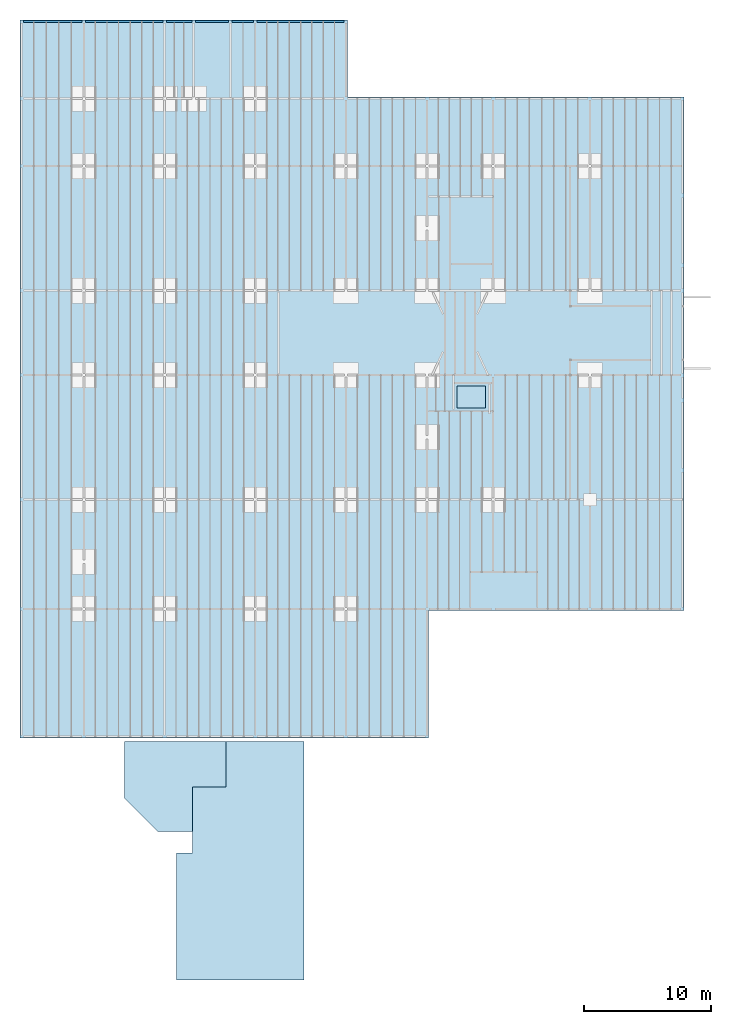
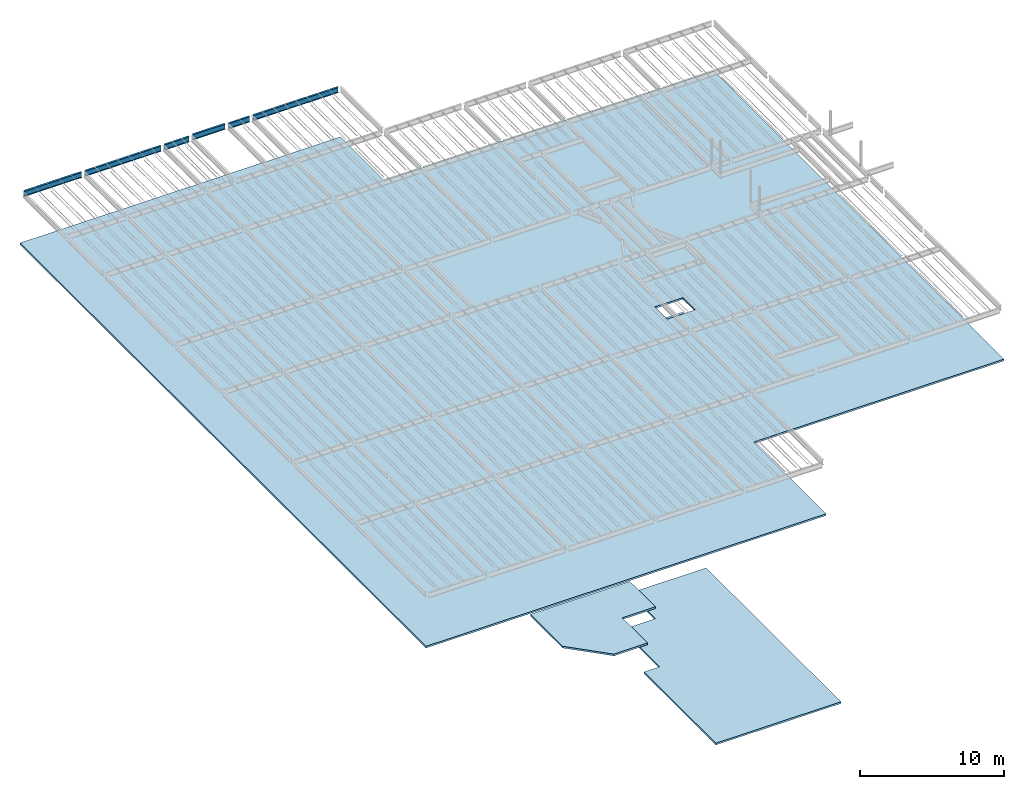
# One storey, part 16 of 75: 7 beams, 4 slabs, 1 opening.
"""IFC2X3 building model written with IfcOpenShell, lengths in metres."""

from ifc_helpers import new_model, entity, si_unit, converted_unit, frame, frame_2d, origin, origin_2d_with_axis, place, context, project, spatial, polyline, circle_curve, parameter, trimmed, segment, composite_curve, rectangle, outline, extrude, material, layer, layer_set, layer_usage, element, save


model = new_model("IFC2X3")

# Units and contexts
model_context = context("Model", 3, precision=1e-09, world=origin())
plan_context = context("Plan", 3, precision=1e-09, world=origin())
ifc_project = project(units=[si_unit("LENGTHUNIT", "METRE"), si_unit("AREAUNIT", "SQUARE_METRE"), si_unit("VOLUMEUNIT", "CUBIC_METRE"), converted_unit("PLANEANGLEUNIT", "DEGREE", entity("IfcRatioMeasure", 0.01745329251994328), si_unit("PLANEANGLEUNIT", "RADIAN"), dimensions=[0, 0, 0, 0, 0, 0, 0]), si_unit("TIMEUNIT", "SECOND")], contexts=[model_context, plan_context])

# Site, building, storey
site_placement = place(None, origin())
site = spatial("IfcSite", under=ifc_project, at=site_placement, Name="Default", CompositionType="ELEMENT")
building_placement = place(site_placement, origin())
building = spatial("IfcBuilding", under=site, at=building_placement, CompositionType="ELEMENT")
storey_placement = place(building_placement, origin())
storey = spatial("IfcBuildingStorey", under=building, at=storey_placement, Name="First Floor", CompositionType="ELEMENT", Elevation=-3.531500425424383e-13)

# Beams
ifc_material_1 = material(Name="Metal - Steel - 345 MPa")
beam_1_placement = place(storey_placement, frame((-46.99784025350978, 56.14000000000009, 4.404500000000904), z_axis=(0.0, 0.0, 1.0), x_axis=(0.0, -1.0, 0.0)))
element("IfcBeam", 1, at=beam_1_placement, inside=storey, material=ifc_material_1, Name="M_W-Wide Flange:W460X60:W460X60", ObjectType="M_W-Wide Flange:W460X60", context=model_context, shape_type="SweptSolid", body=[
    extrude(outline(composite_curve([segment(polyline([(-0.07650000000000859, -0.2142000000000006), (-0.07650000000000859, -0.2275000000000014)]), True, "CONTINUOUS"), segment(polyline([(-0.07650000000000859, -0.2275000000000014), (0.07649999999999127, -0.2275000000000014)]), True, "CONTINUOUS"), segment(polyline([(0.07649999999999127, -0.2275000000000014), (0.07649999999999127, -0.2142000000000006)]), True, "CONTINUOUS"), segment(polyline([(0.07649999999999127, -0.2142000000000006), (0.02169999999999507, -0.2142000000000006)]), True, "CONTINUOUS"), segment(trimmed(circle_curve(frame_2d((0.02169999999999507, -0.1965000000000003), x_axis=(1.0, 0.0)), 0.0177), [parameter(180.0)], [parameter(269.9999999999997)], True, "PARAMETER"), False, "CONTINUOUS"), segment(polyline([(0.003999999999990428, -0.1965000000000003), (0.003999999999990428, 0.1964999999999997)]), True, "CONTINUOUS"), segment(trimmed(circle_curve(frame_2d((0.02169999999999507, 0.1964999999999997), x_axis=(1.0, 0.0)), 0.0177), [parameter(90.00000000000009)], [parameter(179.9999999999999)], True, "PARAMETER"), False, "CONTINUOUS"), segment(polyline([(0.02169999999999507, 0.2141999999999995), (0.07649999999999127, 0.2141999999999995)]), True, "CONTINUOUS"), segment(polyline([(0.07649999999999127, 0.2141999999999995), (0.07649999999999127, 0.2274999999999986)]), True, "CONTINUOUS"), segment(polyline([(0.07649999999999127, 0.2274999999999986), (-0.07650000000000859, 0.2274999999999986)]), True, "CONTINUOUS"), segment(polyline([(-0.07650000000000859, 0.2274999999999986), (-0.07650000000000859, 0.2141999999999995)]), True, "CONTINUOUS"), segment(polyline([(-0.07650000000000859, 0.2141999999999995), (-0.02170000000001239, 0.2141999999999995)]), True, "CONTINUOUS"), segment(trimmed(circle_curve(frame_2d((-0.02170000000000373, 0.1964999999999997), x_axis=(1.0, 0.0)), 0.0177), [parameter(359.9999999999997)], [parameter(89.99999999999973)], True, "PARAMETER"), False, "CONTINUOUS"), segment(polyline([(-0.004000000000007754, 0.1964999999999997), (-0.004000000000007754, -0.1965000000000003)]), True, "CONTINUOUS"), segment(trimmed(circle_curve(frame_2d((-0.02170000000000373, -0.1965000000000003), x_axis=(1.0, 0.0)), 0.0177), [parameter(269.9999999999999)], [parameter(0.0)], True, "PARAMETER"), False, "CONTINUOUS"), segment(polyline([(-0.02170000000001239, -0.2142000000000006), (-0.07650000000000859, -0.2142000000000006)]), True, "CONTINUOUS")], self_intersect=False)), frame((0.0, 0.1390402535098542, -0.2275000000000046), z_axis=(0.0, -1.0, 0.0), x_axis=(1.0, 0.0, 0.0)), (0.0, 0.0, -1.0), 6.05759999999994),
])
beam_2_placement = place(storey_placement, frame((-33.55192591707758, 56.14000000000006, 4.404500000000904), z_axis=(0.0, 0.0, 1.0), x_axis=(0.0, -1.0, 0.0)))
element("IfcBeam", 2, at=beam_2_placement, inside=storey, material=ifc_material_1, Name="M_W-Wide Flange:W460X60:W460X60", ObjectType="M_W-Wide Flange:W460X60", context=model_context, shape_type="SweptSolid", body=[
    extrude(outline(composite_curve([segment(polyline([(-0.07649999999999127, -0.2142000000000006), (-0.07649999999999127, -0.2275000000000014)]), True, "CONTINUOUS"), segment(polyline([(-0.07649999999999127, -0.2275000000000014), (0.0765000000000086, -0.2275000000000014)]), True, "CONTINUOUS"), segment(polyline([(0.0765000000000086, -0.2275000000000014), (0.0765000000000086, -0.2142000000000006)]), True, "CONTINUOUS"), segment(polyline([(0.0765000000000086, -0.2142000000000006), (0.02170000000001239, -0.2142000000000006)]), True, "CONTINUOUS"), segment(trimmed(circle_curve(frame_2d((0.02170000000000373, -0.1965000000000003), x_axis=(0.0, -1.0)), 0.0177), [parameter(269.9999999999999)], [parameter(359.9999999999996)], True, "PARAMETER"), False, "CONTINUOUS"), segment(polyline([(0.004000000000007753, -0.1965000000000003), (0.004000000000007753, 0.1964999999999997)]), True, "CONTINUOUS"), segment(trimmed(circle_curve(frame_2d((0.02170000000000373, 0.1964999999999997), x_axis=(-1.0, 0.0)), 0.0177), [parameter(269.9999999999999)], [parameter(359.9999999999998)], True, "PARAMETER"), False, "CONTINUOUS"), segment(polyline([(0.02170000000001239, 0.2141999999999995), (0.0765000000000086, 0.2141999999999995)]), True, "CONTINUOUS"), segment(polyline([(0.0765000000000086, 0.2141999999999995), (0.0765000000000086, 0.2274999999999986)]), True, "CONTINUOUS"), segment(polyline([(0.0765000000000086, 0.2274999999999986), (-0.07649999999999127, 0.2274999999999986)]), True, "CONTINUOUS"), segment(polyline([(-0.07649999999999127, 0.2274999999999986), (-0.07649999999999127, 0.2141999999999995)]), True, "CONTINUOUS"), segment(polyline([(-0.07649999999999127, 0.2141999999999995), (-0.02169999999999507, 0.2141999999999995)]), True, "CONTINUOUS"), segment(trimmed(circle_curve(frame_2d((-0.02169999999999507, 0.1964999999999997), x_axis=(0.0, 1.0)), 0.0177), [parameter(269.9999999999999)], [parameter(359.9999999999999)], True, "PARAMETER"), False, "CONTINUOUS"), segment(polyline([(-0.003999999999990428, 0.1964999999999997), (-0.003999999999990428, -0.1965000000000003)]), True, "CONTINUOUS"), segment(trimmed(circle_curve(frame_2d((-0.02169999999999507, -0.1965000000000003), x_axis=(1.0, 0.0)), 0.0177), [parameter(269.9999999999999)], [parameter(5.088887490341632e-14)], True, "PARAMETER"), False, "CONTINUOUS"), segment(polyline([(-0.02169999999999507, -0.2142000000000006), (-0.07649999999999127, -0.2142000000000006)]), True, "CONTINUOUS")], self_intersect=False)), frame((0.0, 0.1431259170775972, -0.2275000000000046), z_axis=(0.0, -1.0, 0.0), x_axis=(1.0, 0.0, 0.0)), (0.0, 0.0, -1.0), 6.827600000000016),
])
beam_3_placement = place(storey_placement, frame((-51.897205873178, 56.14000000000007, 4.404500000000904), z_axis=(0.0, 0.0, 1.0), x_axis=(0.0, -1.0, 0.0)))
element("IfcBeam", 3, at=beam_3_placement, inside=storey, material=ifc_material_1, Name="M_W-Wide Flange:W460X60:W460X60", ObjectType="M_W-Wide Flange:W460X60", context=model_context, shape_type="SweptSolid", body=[
    extrude(outline(composite_curve([segment(polyline([(-0.07649999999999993, -0.2142000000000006), (-0.07649999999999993, -0.2275000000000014)]), True, "CONTINUOUS"), segment(polyline([(-0.07649999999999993, -0.2275000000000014), (0.07649999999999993, -0.2275000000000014)]), True, "CONTINUOUS"), segment(polyline([(0.07649999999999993, -0.2275000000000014), (0.07649999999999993, -0.2142000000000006)]), True, "CONTINUOUS"), segment(polyline([(0.07649999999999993, -0.2142000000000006), (0.02170000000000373, -0.2142000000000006)]), True, "CONTINUOUS"), segment(trimmed(circle_curve(frame_2d((0.02170000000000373, -0.1965000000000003), x_axis=(1.0, 0.0)), 0.0177), [parameter(180.0)], [parameter(269.9999999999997)], True, "PARAMETER"), False, "CONTINUOUS"), segment(polyline([(0.003999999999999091, -0.1965000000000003), (0.003999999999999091, 0.1964999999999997)]), True, "CONTINUOUS"), segment(trimmed(circle_curve(frame_2d((0.02170000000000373, 0.1964999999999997), x_axis=(1.0, 0.0)), 0.0177), [parameter(90.00000000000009)], [parameter(179.9999999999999)], True, "PARAMETER"), False, "CONTINUOUS"), segment(polyline([(0.02170000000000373, 0.2141999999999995), (0.07649999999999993, 0.2141999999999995)]), True, "CONTINUOUS"), segment(polyline([(0.07649999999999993, 0.2141999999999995), (0.07649999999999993, 0.2274999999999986)]), True, "CONTINUOUS"), segment(polyline([(0.07649999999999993, 0.2274999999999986), (-0.07649999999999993, 0.2274999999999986)]), True, "CONTINUOUS"), segment(polyline([(-0.07649999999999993, 0.2274999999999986), (-0.07649999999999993, 0.2141999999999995)]), True, "CONTINUOUS"), segment(polyline([(-0.07649999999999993, 0.2141999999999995), (-0.02170000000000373, 0.2141999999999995)]), True, "CONTINUOUS"), segment(trimmed(circle_curve(frame_2d((-0.02169999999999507, 0.1964999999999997), x_axis=(1.0, 0.0)), 0.0177), [parameter(359.9999999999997)], [parameter(89.99999999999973)], True, "PARAMETER"), False, "CONTINUOUS"), segment(polyline([(-0.003999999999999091, 0.1964999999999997), (-0.003999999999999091, -0.1965000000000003)]), True, "CONTINUOUS"), segment(trimmed(circle_curve(frame_2d((-0.02169999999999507, -0.1965000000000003), x_axis=(1.0, 0.0)), 0.0177), [parameter(269.9999999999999)], [parameter(0.0)], True, "PARAMETER"), False, "CONTINUOUS"), segment(polyline([(-0.02170000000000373, -0.2142000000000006), (-0.07649999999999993, -0.2142000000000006)]), True, "CONTINUOUS")], self_intersect=False)), frame((0.0, 0.1384058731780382, -0.2275000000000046), z_axis=(0.0, -1.0, 0.0), x_axis=(1.0, 0.0, 0.0)), (0.0, 0.0, -1.0), 4.617600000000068),
])
beam_4_placement = place(storey_placement, frame((-51.897205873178, 56.14000000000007, 4.404500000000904), z_axis=(0.0, 0.0, 1.0), x_axis=(0.0, -1.0, 0.0)))
element("IfcBeam", 4, at=beam_4_placement, inside=storey, material=ifc_material_1, Name="M_W-Wide Flange:W460X60:W460X60", ObjectType="M_W-Wide Flange:W460X60", context=model_context, shape_type="SweptSolid", body=[
    extrude(outline(composite_curve([segment(polyline([(-0.07649999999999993, -0.2142000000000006), (-0.07649999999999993, -0.2275000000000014)]), True, "CONTINUOUS"), segment(polyline([(-0.07649999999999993, -0.2275000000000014), (0.07649999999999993, -0.2275000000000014)]), True, "CONTINUOUS"), segment(polyline([(0.07649999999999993, -0.2275000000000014), (0.07649999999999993, -0.2142000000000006)]), True, "CONTINUOUS"), segment(polyline([(0.07649999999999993, -0.2142000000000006), (0.02170000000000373, -0.2142000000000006)]), True, "CONTINUOUS"), segment(trimmed(circle_curve(frame_2d((0.02170000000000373, -0.1965000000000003), x_axis=(1.0, 0.0)), 0.0177), [parameter(180.0)], [parameter(269.9999999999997)], True, "PARAMETER"), False, "CONTINUOUS"), segment(polyline([(0.003999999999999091, -0.1965000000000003), (0.003999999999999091, 0.1964999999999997)]), True, "CONTINUOUS"), segment(trimmed(circle_curve(frame_2d((0.02170000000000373, 0.1964999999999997), x_axis=(1.0, 0.0)), 0.0177), [parameter(90.00000000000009)], [parameter(179.9999999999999)], True, "PARAMETER"), False, "CONTINUOUS"), segment(polyline([(0.02170000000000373, 0.2141999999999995), (0.07649999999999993, 0.2141999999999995)]), True, "CONTINUOUS"), segment(polyline([(0.07649999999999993, 0.2141999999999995), (0.07649999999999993, 0.2274999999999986)]), True, "CONTINUOUS"), segment(polyline([(0.07649999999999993, 0.2274999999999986), (-0.07649999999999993, 0.2274999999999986)]), True, "CONTINUOUS"), segment(polyline([(-0.07649999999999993, 0.2274999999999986), (-0.07649999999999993, 0.2141999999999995)]), True, "CONTINUOUS"), segment(polyline([(-0.07649999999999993, 0.2141999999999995), (-0.02170000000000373, 0.2141999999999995)]), True, "CONTINUOUS"), segment(trimmed(circle_curve(frame_2d((-0.02169999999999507, 0.1964999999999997), x_axis=(1.0, 0.0)), 0.0177), [parameter(359.9999999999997)], [parameter(89.99999999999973)], True, "PARAMETER"), False, "CONTINUOUS"), segment(polyline([(-0.003999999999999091, 0.1964999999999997), (-0.003999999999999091, -0.1965000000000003)]), True, "CONTINUOUS"), segment(trimmed(circle_curve(frame_2d((-0.02169999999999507, -0.1965000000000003), x_axis=(1.0, 0.0)), 0.0177), [parameter(269.9999999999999)], [parameter(0.0)], True, "PARAMETER"), False, "CONTINUOUS"), segment(polyline([(-0.02170000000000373, -0.2142000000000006), (-0.07649999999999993, -0.2142000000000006)]), True, "CONTINUOUS")], self_intersect=False)), frame((0.0, 0.1384058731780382, -0.2275000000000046), z_axis=(0.0, -1.0, 0.0), x_axis=(1.0, 0.0, 0.0)), (0.0, 0.0, -1.0), 4.617600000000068),
])
beam_5_placement = place(storey_placement, frame((-35.50302510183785, 56.14000000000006, 4.404500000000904), z_axis=(0.0, 0.0, 1.0), x_axis=(0.0, -1.0, 0.0)))
element("IfcBeam", 5, at=beam_5_placement, inside=storey, material=ifc_material_1, Name="M_W-Wide Flange:W460X60:W460X60", ObjectType="M_W-Wide Flange:W460X60", context=model_context, shape_type="SweptSolid", body=[
    extrude(outline(composite_curve([segment(polyline([(-0.07649999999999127, -0.2142000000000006), (-0.07649999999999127, -0.2275000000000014)]), True, "CONTINUOUS"), segment(polyline([(-0.07649999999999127, -0.2275000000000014), (0.07650000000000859, -0.2275000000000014)]), True, "CONTINUOUS"), segment(polyline([(0.07650000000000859, -0.2275000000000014), (0.07650000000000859, -0.2142000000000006)]), True, "CONTINUOUS"), segment(polyline([(0.07650000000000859, -0.2142000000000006), (0.02170000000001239, -0.2142000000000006)]), True, "CONTINUOUS"), segment(trimmed(circle_curve(frame_2d((0.02170000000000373, -0.1965000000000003), x_axis=(0.0, -1.0)), 0.0177), [parameter(269.9999999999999)], [parameter(359.9999999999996)], True, "PARAMETER"), False, "CONTINUOUS"), segment(polyline([(0.004000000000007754, -0.1965000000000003), (0.004000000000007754, 0.1964999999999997)]), True, "CONTINUOUS"), segment(trimmed(circle_curve(frame_2d((0.02170000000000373, 0.1964999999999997), x_axis=(-1.0, 0.0)), 0.0177), [parameter(269.9999999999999)], [parameter(359.9999999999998)], True, "PARAMETER"), False, "CONTINUOUS"), segment(polyline([(0.02170000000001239, 0.2141999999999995), (0.07650000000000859, 0.2141999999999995)]), True, "CONTINUOUS"), segment(polyline([(0.07650000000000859, 0.2141999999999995), (0.07650000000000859, 0.2274999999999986)]), True, "CONTINUOUS"), segment(polyline([(0.07650000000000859, 0.2274999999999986), (-0.07649999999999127, 0.2274999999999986)]), True, "CONTINUOUS"), segment(polyline([(-0.07649999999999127, 0.2274999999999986), (-0.07649999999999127, 0.2141999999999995)]), True, "CONTINUOUS"), segment(polyline([(-0.07649999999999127, 0.2141999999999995), (-0.02169999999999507, 0.2141999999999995)]), True, "CONTINUOUS"), segment(trimmed(circle_curve(frame_2d((-0.02169999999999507, 0.1964999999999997), x_axis=(0.0, 1.0)), 0.0177), [parameter(269.9999999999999)], [parameter(359.9999999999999)], True, "PARAMETER"), False, "CONTINUOUS"), segment(polyline([(-0.003999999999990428, 0.1964999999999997), (-0.003999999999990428, -0.1965000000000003)]), True, "CONTINUOUS"), segment(trimmed(circle_curve(frame_2d((-0.02169999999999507, -0.1965000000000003), x_axis=(1.0, 0.0)), 0.0177), [parameter(269.9999999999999)], [parameter(5.088887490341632e-14)], True, "PARAMETER"), False, "CONTINUOUS"), segment(polyline([(-0.02169999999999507, -0.2142000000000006), (-0.07649999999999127, -0.2142000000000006)]), True, "CONTINUOUS")], self_intersect=False)), frame((0.0, 0.1342251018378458, -0.2275000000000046), z_axis=(0.0, -1.0, 0.0), x_axis=(1.0, 0.0, 0.0)), (0.0, 0.0, -1.0), 1.677600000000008),
])
beam_6_placement = place(storey_placement, frame((-40.65397490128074, 56.14000000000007, 4.404500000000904), z_axis=(0.0, 0.0, 1.0), x_axis=(0.0, -1.0, 0.0)))
element("IfcBeam", 6, at=beam_6_placement, inside=storey, material=ifc_material_1, Name="M_W-Wide Flange:W460X60:W460X60", ObjectType="M_W-Wide Flange:W460X60", context=model_context, shape_type="SweptSolid", body=[
    extrude(outline(composite_curve([segment(polyline([(-0.07649999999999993, -0.2142000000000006), (-0.07649999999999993, -0.2275000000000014)]), True, "CONTINUOUS"), segment(polyline([(-0.07649999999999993, -0.2275000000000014), (0.07649999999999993, -0.2275000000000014)]), True, "CONTINUOUS"), segment(polyline([(0.07649999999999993, -0.2275000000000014), (0.07649999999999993, -0.2142000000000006)]), True, "CONTINUOUS"), segment(polyline([(0.07649999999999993, -0.2142000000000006), (0.02170000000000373, -0.2142000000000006)]), True, "CONTINUOUS"), segment(trimmed(circle_curve(frame_2d((0.02169999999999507, -0.1965000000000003), x_axis=(0.0, -1.0)), 0.0177), [parameter(269.9999999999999)], [parameter(359.9999999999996)], True, "PARAMETER"), False, "CONTINUOUS"), segment(polyline([(0.003999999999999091, -0.1965000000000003), (0.003999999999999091, 0.1964999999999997)]), True, "CONTINUOUS"), segment(trimmed(circle_curve(frame_2d((0.02169999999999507, 0.1964999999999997), x_axis=(-1.0, 0.0)), 0.0177), [parameter(269.9999999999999)], [parameter(359.9999999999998)], True, "PARAMETER"), False, "CONTINUOUS"), segment(polyline([(0.02170000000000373, 0.2141999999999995), (0.07649999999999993, 0.2141999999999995)]), True, "CONTINUOUS"), segment(polyline([(0.07649999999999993, 0.2141999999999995), (0.07649999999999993, 0.2274999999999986)]), True, "CONTINUOUS"), segment(polyline([(0.07649999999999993, 0.2274999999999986), (-0.07649999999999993, 0.2274999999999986)]), True, "CONTINUOUS"), segment(polyline([(-0.07649999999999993, 0.2274999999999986), (-0.07649999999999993, 0.2141999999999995)]), True, "CONTINUOUS"), segment(polyline([(-0.07649999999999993, 0.2141999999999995), (-0.02170000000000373, 0.2141999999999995)]), True, "CONTINUOUS"), segment(trimmed(circle_curve(frame_2d((-0.02170000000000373, 0.1964999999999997), x_axis=(0.0, 1.0)), 0.0177), [parameter(269.9999999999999)], [parameter(359.9999999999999)], True, "PARAMETER"), False, "CONTINUOUS"), segment(polyline([(-0.003999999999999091, 0.1964999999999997), (-0.003999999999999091, -0.1965000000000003)]), True, "CONTINUOUS"), segment(trimmed(circle_curve(frame_2d((-0.02170000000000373, -0.1965000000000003), x_axis=(1.0, 0.0)), 0.0177), [parameter(269.9999999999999)], [parameter(5.088887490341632e-14)], True, "PARAMETER"), False, "CONTINUOUS"), segment(polyline([(-0.02170000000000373, -0.2142000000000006), (-0.07649999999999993, -0.2142000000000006)]), True, "CONTINUOUS")], self_intersect=False)), frame((0.0, 0.1351749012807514, -0.2275000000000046), z_axis=(0.0, -1.0, 0.0), x_axis=(1.0, 0.0, 0.0)), (0.0, 0.0, -1.0), 1.987600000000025),
])
beam_7_placement = place(storey_placement, frame((-38.38524866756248, 56.14000000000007, 4.468000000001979), z_axis=(0.0, 0.0, 1.0), x_axis=(0.0, -1.0, 0.0)))
element("IfcBeam", 7, at=beam_7_placement, inside=storey, material=ifc_material_1, Name="M_W-Wide Flange:W460X60:W460X60", ObjectType="M_W-Wide Flange:W460X60", context=model_context, shape_type="SweptSolid", body=[
    extrude(outline(composite_curve([segment(polyline([(-0.07649999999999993, -0.2141999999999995), (-0.07649999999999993, -0.2275000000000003)]), True, "CONTINUOUS"), segment(polyline([(-0.07649999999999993, -0.2275000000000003), (0.07649999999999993, -0.2275000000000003)]), True, "CONTINUOUS"), segment(polyline([(0.07649999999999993, -0.2275000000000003), (0.07649999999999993, -0.2141999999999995)]), True, "CONTINUOUS"), segment(polyline([(0.07649999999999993, -0.2141999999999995), (0.02170000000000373, -0.2141999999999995)]), True, "CONTINUOUS"), segment(trimmed(circle_curve(frame_2d((0.02169999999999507, -0.1964999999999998), x_axis=(0.0, -1.0)), 0.0177), [parameter(269.9999999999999)], [parameter(359.9999999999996)], True, "PARAMETER"), False, "CONTINUOUS"), segment(polyline([(0.003999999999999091, -0.1964999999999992), (0.003999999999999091, 0.1965000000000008)]), True, "CONTINUOUS"), segment(trimmed(circle_curve(frame_2d((0.02169999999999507, 0.1965000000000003), x_axis=(-1.0, 0.0)), 0.0177), [parameter(269.9999999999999)], [parameter(359.9999999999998)], True, "PARAMETER"), False, "CONTINUOUS"), segment(polyline([(0.02170000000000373, 0.2142000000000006), (0.07649999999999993, 0.2142000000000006)]), True, "CONTINUOUS"), segment(polyline([(0.07649999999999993, 0.2142000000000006), (0.07649999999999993, 0.2274999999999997)]), True, "CONTINUOUS"), segment(polyline([(0.07649999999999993, 0.2274999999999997), (-0.07649999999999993, 0.2274999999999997)]), True, "CONTINUOUS"), segment(polyline([(-0.07649999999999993, 0.2274999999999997), (-0.07649999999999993, 0.2142000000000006)]), True, "CONTINUOUS"), segment(polyline([(-0.07649999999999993, 0.2142000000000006), (-0.02170000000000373, 0.2142000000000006)]), True, "CONTINUOUS"), segment(trimmed(circle_curve(frame_2d((-0.02170000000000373, 0.1965000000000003), x_axis=(0.0, 1.0)), 0.0177), [parameter(269.9999999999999)], [parameter(359.9999999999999)], True, "PARAMETER"), False, "CONTINUOUS"), segment(polyline([(-0.003999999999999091, 0.1965000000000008), (-0.003999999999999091, -0.1964999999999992)]), True, "CONTINUOUS"), segment(trimmed(circle_curve(frame_2d((-0.02170000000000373, -0.1964999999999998), x_axis=(1.0, 0.0)), 0.0177), [parameter(269.9999999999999)], [parameter(5.088887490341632e-14)], True, "PARAMETER"), False, "CONTINUOUS"), segment(polyline([(-0.02170000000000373, -0.2141999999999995), (-0.07649999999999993, -0.2141999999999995)]), True, "CONTINUOUS")], self_intersect=False)), frame((0.0, 0.1364486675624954, -0.2275000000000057), z_axis=(0.0, -1.0, 0.0), x_axis=(1.0, 0.0, 0.0)), (0.0, 0.0, -1.0), 2.597600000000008),
])

# Slab, opening
ifc_material_2 = material(Name="Concrete - Cast In Situ")
ifc_layer_1 = layer(ifc_material_2, 0.15)
ifc_layer_set_1 = layer_set([ifc_layer_1], Name="Floor:150mm Slab on Grade")
ifc_layer_usage_1 = layer_usage(ifc_layer_set_1, "AXIS3", "POSITIVE", 0.0)
slab_1_placement = place(storey_placement, frame((-52.0160000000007, -0.1160000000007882, -0.15)))
slab_1 = element("IfcSlab", 8, at=slab_1_placement, inside=storey, material=ifc_layer_usage_1, Name="Floor:150mm Slab on Grade", ObjectType="Floor:150mm Slab on Grade", PredefinedType="FLOOR", context=model_context, shape_type="SweptSolid", body=[
    extrude(outline(polyline([(0.37399999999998, 28.18600000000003), (0.3739999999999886, 22.1360000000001), (-26.06600000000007, 22.1360000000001), (-26.06600000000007, -18.146), (-6.00599999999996, -18.146), (-6.00599999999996, -28.18600000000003), (26.06600000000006, -28.18600000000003), (26.06600000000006, 28.1860000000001), (0.37399999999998, 28.18600000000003)])), frame((26.06600000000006, 28.18600000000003, 0.15), z_axis=(0.0, 0.0, -1.0), x_axis=(-1.0, 0.0, 0.0)), (0.0, 0.0, 1.0), 0.15),
])
opening_placement = place(slab_1_placement, frame((35.42840000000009, 26.78065000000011, 0.15)))
element("IfcOpeningElement", 9, at=opening_placement, cuts=slab_1, Name="Floor:150mm Slab on Grade:2", ObjectType="Opening", context=model_context, shape_type="SweptSolid", body=[
    extrude(rectangle(XDim=1.7145, YDim=2.235200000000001, at=origin_2d_with_axis()), frame((0.0, 0.0, 0.0), z_axis=(0.0, 0.0, -1.0), x_axis=(0.0, 1.0, 0.0)), (0.0, 0.0, 1.0), 0.15),
])

# Slabs
slab_2_placement = place(storey_placement, frame((-17.70520000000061, 25.80739999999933, -1.3696)))
element("IfcSlab", 10, at=slab_2_placement, inside=storey, material=ifc_layer_usage_1, Name="Floor:150mm Slab on Grade", ObjectType="Floor:150mm Slab on Grade", PredefinedType="FLOOR", context=model_context, shape_type="SweptSolid", body=[
    extrude(rectangle(XDim=2.235200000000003, YDim=1.714499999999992, at=origin_2d_with_axis()), frame((1.117600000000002, 0.8572499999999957, 0.1500000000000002), z_axis=(0.0, 0.0, -1.0), x_axis=(-1.0, 0.0, 0.0)), (0.0, 0.0, 1.0), 0.15),
])
ifc_layer_2 = layer(ifc_material_2, 0.15)
ifc_layer_set_2 = layer_set([ifc_layer_2], Name="Floor:150mm Exterior Slab on Grade")
ifc_layer_usage_2 = layer_usage(ifc_layer_set_2, "AXIS3", "POSITIVE", 0.0)
slab_3_placement = place(storey_placement, frame((-39.73956183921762, -19.0955030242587, -1.15)))
element("IfcSlab", 11, at=slab_3_placement, inside=storey, material=ifc_layer_usage_2, Name="Floor:150mm Exterior Slab on Grade", ObjectType="Floor:150mm Exterior Slab on Grade", PredefinedType="FLOOR", context=model_context, shape_type="SweptSolid", body=[
    extrude(outline(polyline([(-5.015499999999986, -9.35775151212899), (5.015500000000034, -9.357751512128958), (5.015500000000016, 0.6009945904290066), (3.765500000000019, 0.6009945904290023), (3.765500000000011, 5.797751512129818), (1.105500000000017, 5.79775151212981), (1.105500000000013, 9.357751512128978), (-5.015500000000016, 9.35775151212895), (-5.015499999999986, -9.35775151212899)])), frame((5.015500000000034, 9.35775151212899, 0.15), z_axis=(0.0, 0.0, -1.0), x_axis=(-1.0, 0.0, 0.0)), (0.0, 0.0, 1.0), 0.15),
])
slab_4_placement = place(storey_placement, frame((-43.80040000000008, -7.45675692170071, -0.15)))
element("IfcSlab", 12, at=slab_4_placement, inside=storey, material=ifc_layer_usage_1, Name="Floor:150mm Slab on Grade", ObjectType="Floor:150mm Slab on Grade", PredefinedType="FLOOR", context=model_context, shape_type="SweptSolid", body=[
    extrude(outline(polyline([(-3.985419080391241, 3.538378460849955), (-3.985419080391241, -0.02162153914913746), (-1.325419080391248, -0.02162153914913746), (-1.325419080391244, -3.538378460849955), (1.378662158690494, -3.538378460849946), (3.985419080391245, -0.9316215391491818), (3.985419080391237, 3.538378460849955), (-3.985419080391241, 3.538378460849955)])), frame((3.985419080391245, 3.538378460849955, 0.15), z_axis=(0.0, 0.0, -1.0), x_axis=(-1.0, 0.0, 0.0)), (0.0, 0.0, 1.0), 0.15),
])

save(model, "model.ifc")
